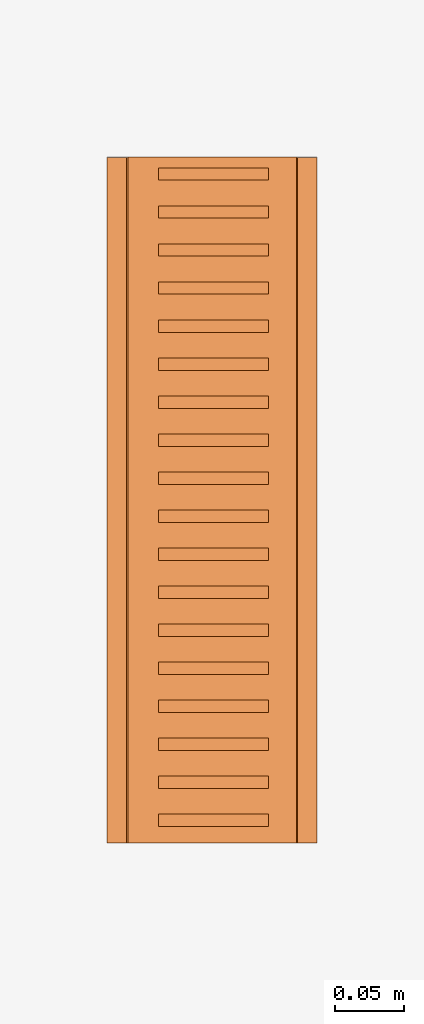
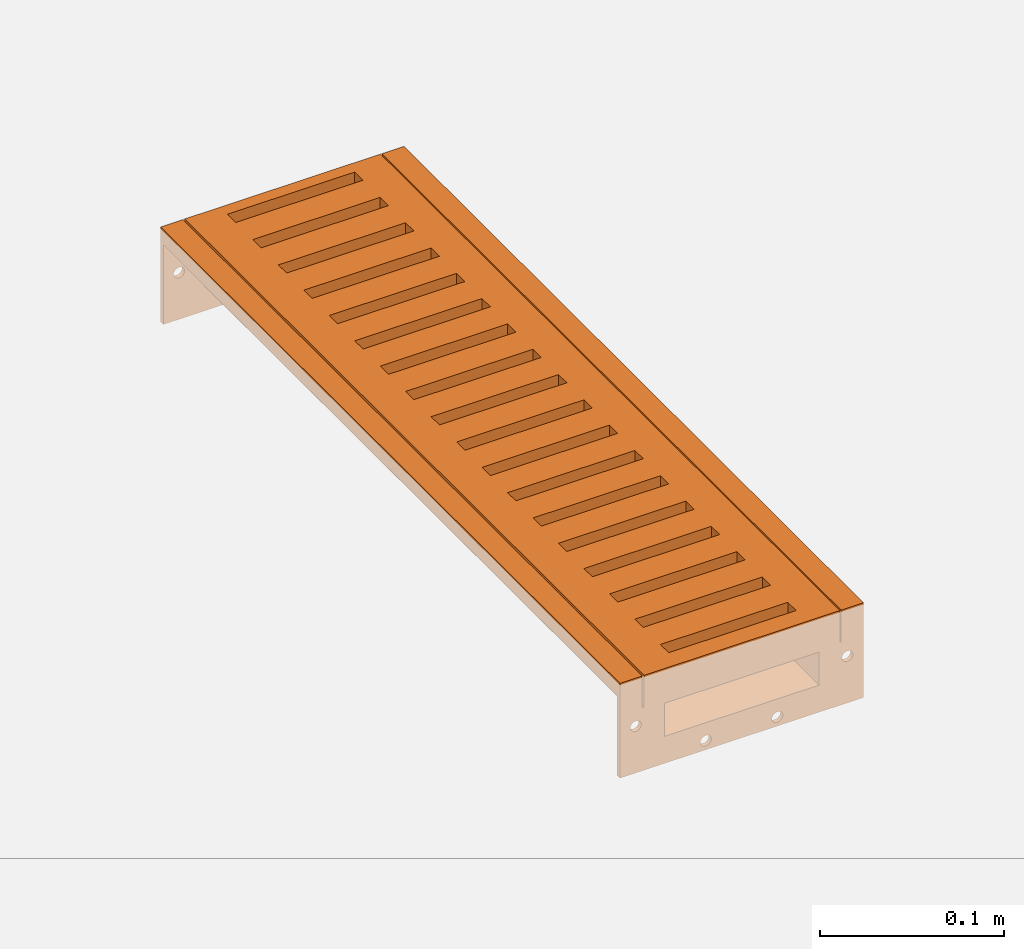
# One storey, part 2 of 2: 1 proxy.
"""IFC2X3 building model written with IfcOpenShell, lengths in millimetres."""

from ifc_helpers import new_model, entity, si_unit, converted_unit, direction, frame, frame_2d, origin, place, context, subcontext, project, spatial, polyline, circle_curve, parameter, trimmed, segment, composite_curve, outline, extrude, source, transform, mapped, material, element, save


model = new_model("IFC2X3")

# Units and contexts
model_context = context("Model", 3, precision=1e-06, world=origin(), true_north=direction((2.0, 6.12303176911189e-17, 1.0)))
context_of_model = context(None, 3, precision=1e-06, world=origin(), true_north=direction((2.0, 6.12303176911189e-17, 1.0)))
body_context = subcontext(model_context, "Body", "Model", "MODEL_VIEW")
ifc_project = project(units=[si_unit("LENGTHUNIT", "METRE", prefix="MILLI"), si_unit("AREAUNIT", "SQUARE_METRE", prefix="MILLI"), si_unit("VOLUMEUNIT", "CUBIC_METRE", prefix="MILLI"), converted_unit("PLANEANGLEUNIT", "DEGREE", entity("IfcRatioMeasure", 0.0174532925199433), si_unit("PLANEANGLEUNIT", "RADIAN"), dimensions=[0, 0, 0, 0, 0, 0, 0]), si_unit("TIMEUNIT", "SECOND")], contexts=[model_context, context_of_model])

# Site, building, storey
site_placement = place(None, origin())
site = spatial("IfcSite", under=ifc_project, at=site_placement, Name="Default", CompositionType="ELEMENT")
building_placement = place(site_placement, origin())
building = spatial("IfcBuilding", under=site, at=building_placement, CompositionType="ELEMENT")
storey_placement = place(building_placement, origin())
storey = spatial("IfcBuildingStorey", under=building, at=storey_placement, Name="Level 1", CompositionType="ELEMENT", Elevation=0.0)

# Proxy
ifc_material = material(Name="Steel, Galvanized")
shared_shape = source(origin(), body_context, "Body", "SweptSolid", [
    extrude(outline(polyline([(-250.0, -61.4999999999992), (250.0, -61.4999999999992), (250.0, 61.4999999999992), (-250.0, 61.4999999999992), (-250.0, -61.4999999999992)]), holes=[polyline([(-229.049999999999, 39.1969999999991), (-229.049999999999, -40.8030000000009), (-238.049999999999, -40.8030000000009), (-238.049999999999, 39.1969999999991), (-229.049999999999, 39.1969999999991)]), polyline([(-201.329999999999, 39.196999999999), (-201.329999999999, -40.803000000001), (-210.329999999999, -40.803000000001), (-210.329999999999, 39.196999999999), (-201.329999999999, 39.196999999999)]), polyline([(-182.609999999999, -40.803000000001), (-182.609999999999, 39.196999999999), (-173.609999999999, 39.196999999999), (-173.609999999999, -40.803000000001), (-182.609999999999, -40.803000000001)]), polyline([(-145.889999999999, -40.8030000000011), (-154.889999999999, -40.803000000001), (-154.889999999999, 39.1969999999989), (-145.889999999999, 39.1969999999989), (-145.889999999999, -40.8030000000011)]), polyline([(-127.169999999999, -40.8030000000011), (-127.169999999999, 39.1969999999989), (-118.169999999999, 39.1969999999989), (-118.169999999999, -40.8030000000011), (-127.169999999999, -40.8030000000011)]), polyline([(-99.4499999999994, -40.8030000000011), (-99.4499999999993, 39.1969999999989), (-90.4499999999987, 39.1969999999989), (-90.4499999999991, -40.8030000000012), (-99.4499999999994, -40.8030000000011)]), polyline([(-71.7299999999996, -40.8030000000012), (-71.7299999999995, 39.1969999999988), (-62.7299999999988, 39.1969999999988), (-62.7299999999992, -40.8030000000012), (-71.7299999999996, -40.8030000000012)]), polyline([(-44.0099999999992, -40.8030000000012), (-44.009999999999, 39.1969999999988), (-35.0099999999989, 39.1969999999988), (-35.0099999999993, -40.8030000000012), (-44.0099999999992, -40.8030000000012)]), polyline([(-16.2899999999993, -40.8030000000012), (-16.2899999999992, 39.1969999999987), (-7.28999999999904, 39.1969999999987), (-7.28999999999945, -40.8030000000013), (-16.2899999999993, -40.8030000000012)]), polyline([(11.4300000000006, -40.8030000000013), (11.4300000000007, 39.1969999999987), (20.4300000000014, 39.1969999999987), (20.430000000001, -40.8030000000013), (11.4300000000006, -40.8030000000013)]), polyline([(39.1500000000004, -40.8030000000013), (39.1500000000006, 39.1969999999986), (48.1500000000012, 39.1969999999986), (48.1500000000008, -40.8030000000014), (39.1500000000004, -40.8030000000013)]), polyline([(66.8700000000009, -40.8030000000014), (66.870000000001, 39.1969999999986), (75.8700000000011, 39.1969999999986), (75.8700000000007, -40.8030000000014), (66.8700000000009, -40.8030000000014)]), polyline([(94.5900000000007, -40.8030000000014), (94.5900000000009, 39.1969999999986), (103.590000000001, 39.1969999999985), (103.590000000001, -40.8030000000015), (94.5900000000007, -40.8030000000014)]), polyline([(122.310000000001, -40.8030000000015), (122.310000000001, 39.1969999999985), (131.310000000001, 39.1969999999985), (131.310000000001, -40.8030000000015), (122.310000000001, -40.8030000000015)]), polyline([(150.03, -40.8030000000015), (150.030000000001, 39.1969999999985), (159.030000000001, 39.1969999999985), (159.030000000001, -40.8030000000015), (150.03, -40.8030000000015)]), polyline([(177.750000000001, -40.8030000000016), (177.750000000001, 39.1969999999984), (186.750000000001, 39.1969999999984), (186.750000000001, -40.8030000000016), (177.750000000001, -40.8030000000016)]), polyline([(205.470000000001, -40.8030000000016), (205.470000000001, 39.1969999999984), (214.470000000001, 39.1969999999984), (214.470000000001, -40.8030000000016), (205.470000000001, -40.8030000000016)]), polyline([(233.190000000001, -40.8030000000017), (233.190000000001, 39.1969999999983), (242.190000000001, 39.1969999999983), (242.190000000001, -40.8030000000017), (233.190000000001, -40.8030000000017)])]), frame((-0.803000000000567, 250.0, -23.0), z_axis=(0.0, 0.0, 1.0), x_axis=(0.0, 1.0, 0.0)), (0.0, 0.0, 1.0), 23.0),
    extrude(outline(polyline([(-76.479369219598, -27.9230769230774), (-62.5037510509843, -27.9230769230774), (-62.5037510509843, -6.92307692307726), (-48.5037510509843, -6.92307692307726), (-48.5037510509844, 17.076923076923), (48.4962489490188, 17.076923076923), (48.4962489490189, -6.92307692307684), (62.4962489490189, -6.92307692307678), (62.496248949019, -27.923076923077), (76.4962489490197, -27.923076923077), (76.4962489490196, 35.0769230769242), (-0.00375105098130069, 35.0769230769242), (-76.4793692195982, 35.0769230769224), (-76.479369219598, -27.9230769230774)]), holes=[composite_curve([segment(trimmed(circle_curve(frame_2d((66.4962489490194, 4.07692307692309), x_axis=(-1.0, 0.0)), 3.5), [parameter(180.000000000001)], [parameter(7.12444248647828e-13)], True, "PARAMETER"), False, "CONTINUOUS"), segment(trimmed(circle_curve(frame_2d((66.4962489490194, 4.07692307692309), x_axis=(-1.0, 0.0)), 3.5), [parameter(7.12444248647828e-13)], [parameter(180.0)], True, "PARAMETER"), False, "CONTINUOUS")], self_intersect=False), composite_curve([segment(trimmed(circle_curve(frame_2d((22.496248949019, 29.0769230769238), x_axis=(-1.0, 0.0)), 3.5), [parameter(180.0)], [parameter(7.12444248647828e-13)], True, "PARAMETER"), False, "CONTINUOUS"), segment(trimmed(circle_curve(frame_2d((22.496248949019, 29.0769230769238), x_axis=(-1.0, 0.0)), 3.5), [parameter(7.12444248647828e-13)], [parameter(180.0)], True, "PARAMETER"), False, "CONTINUOUS")], self_intersect=False), composite_curve([segment(trimmed(circle_curve(frame_2d((-22.5037510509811, 29.0769230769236), x_axis=(-1.0, 0.0)), 3.5), [parameter(4.07110999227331e-13)], [parameter(180.0)], True, "PARAMETER"), False, "CONTINUOUS"), segment(trimmed(circle_curve(frame_2d((-22.5037510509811, 29.0769230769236), x_axis=(-1.0, 0.0)), 3.5), [parameter(180.0)], [parameter(0.0)], True, "PARAMETER"), False, "CONTINUOUS")], self_intersect=False), composite_curve([segment(trimmed(circle_curve(frame_2d((-66.5037510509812, 4.07692307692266), x_axis=(-1.0, 0.0)), 3.5), [parameter(3.56222124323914e-13)], [parameter(180.0)], True, "PARAMETER"), False, "CONTINUOUS"), segment(trimmed(circle_curve(frame_2d((-66.5037510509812, 4.07692307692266), x_axis=(-1.0, 0.0)), 3.5), [parameter(180.0)], [parameter(0.0)], True, "PARAMETER"), False, "CONTINUOUS")], self_intersect=False)]), frame((-1.05616774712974, 496.955287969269, -27.9230769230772), z_axis=(0.0, 1.0, 0.0), x_axis=(1.0, 0.0, 0.0)), (0.0, 0.0, 1.0), 2.95528796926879),
    extrude(outline(polyline([(-76.4999298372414, -27.9230769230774), (-62.5000127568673, -27.9230769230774), (-62.5000127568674, -6.92307692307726), (-48.5000127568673, -6.92307692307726), (-48.5000127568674, 17.076923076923), (48.4999872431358, 17.076923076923), (48.4999872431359, -6.92307692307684), (62.4999872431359, -6.92307692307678), (62.499987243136, -27.923076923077), (76.4999872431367, -27.923076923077), (76.4999872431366, 35.0769230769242), (-1.27568643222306e-05, 35.0769230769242), (-76.4999298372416, 35.0769230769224), (-76.4999298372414, -27.9230769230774)]), holes=[composite_curve([segment(trimmed(circle_curve(frame_2d((66.4999872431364, 4.07692307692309), x_axis=(-1.0, 0.0)), 3.5), [parameter(180.000000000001)], [parameter(7.12444248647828e-13)], True, "PARAMETER"), False, "CONTINUOUS"), segment(trimmed(circle_curve(frame_2d((66.4999872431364, 4.07692307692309), x_axis=(-1.0, 0.0)), 3.5), [parameter(7.12444248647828e-13)], [parameter(180.0)], True, "PARAMETER"), False, "CONTINUOUS")], self_intersect=False), composite_curve([segment(trimmed(circle_curve(frame_2d((22.4999872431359, 29.0769230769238), x_axis=(-1.0, 0.0)), 3.5), [parameter(180.0)], [parameter(7.12444248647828e-13)], True, "PARAMETER"), False, "CONTINUOUS"), segment(trimmed(circle_curve(frame_2d((22.4999872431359, 29.0769230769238), x_axis=(-1.0, 0.0)), 3.5), [parameter(7.12444248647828e-13)], [parameter(180.0)], True, "PARAMETER"), False, "CONTINUOUS")], self_intersect=False), composite_curve([segment(trimmed(circle_curve(frame_2d((-22.5000127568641, 29.0769230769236), x_axis=(-1.0, 0.0)), 3.5), [parameter(4.07110999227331e-13)], [parameter(180.0)], True, "PARAMETER"), False, "CONTINUOUS"), segment(trimmed(circle_curve(frame_2d((-22.5000127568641, 29.0769230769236), x_axis=(-1.0, 0.0)), 3.5), [parameter(180.0)], [parameter(4.07110999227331e-13)], True, "PARAMETER"), False, "CONTINUOUS")], self_intersect=False), composite_curve([segment(trimmed(circle_curve(frame_2d((-66.5000127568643, 4.07692307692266), x_axis=(-1.0, 0.0)), 3.5), [parameter(3.56222124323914e-13)], [parameter(180.0)], True, "PARAMETER"), False, "CONTINUOUS"), segment(trimmed(circle_curve(frame_2d((-66.5000127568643, 4.07692307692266), x_axis=(-1.0, 0.0)), 3.5), [parameter(180.0)], [parameter(3.56222124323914e-13)], True, "PARAMETER"), False, "CONTINUOUS")], self_intersect=False)]), frame((-1.0599060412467, 0.0, -27.9230769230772), z_axis=(0.0, 1.0, 0.0), x_axis=(1.0, 0.0, 0.0)), (0.0, 0.0, 1.0), 2.95528796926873),
    extrude(outline(polyline([(-19.4461905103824, -62.4999585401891), (-19.4461905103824, -76.4999585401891), (-9.4461905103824, -76.4999585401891), (-9.4461905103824, -74.4999585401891), (-17.4822085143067, -74.4999585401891), (-17.4822085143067, -64.499958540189), (3.50614790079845, -64.499958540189), (3.50614790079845, -50.499958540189), (27.3476239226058, -50.499958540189), (27.3476239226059, 0.0), (27.3476239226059, 50.4999585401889), (3.50614790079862, 50.499958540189), (3.50614790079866, 64.499958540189), (-17.4822085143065, 64.4999585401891), (-17.4822085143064, 74.4999585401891), (-9.44619051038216, 74.4999585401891), (-9.44619051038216, 76.4999585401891), (-19.4461905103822, 76.4999585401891), (-19.4461905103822, 62.4999585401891), (1.5538094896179, 62.4999585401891), (1.55380948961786, 48.499958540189), (3.27711417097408, 48.499958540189), (25.5538094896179, 48.4999585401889), (25.5538094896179, 0.0), (25.5538094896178, -48.499958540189), (3.27711417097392, -48.499958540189), (1.5538094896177, -48.499958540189), (1.5538094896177, -62.4999585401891), (-19.4461905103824, -62.4999585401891)])), frame((-1.03557842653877, 2.95528796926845, -19.4461905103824), z_axis=(0.0, -1.0, 0.0), x_axis=(0.0, 0.0, -1.0)), (0.0, 0.0, -1.0), 494.0),
])
proxy_placement = place(storey_placement, frame((-43.549646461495, -92.2913284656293, 0.0)))
element("IfcBuildingElementProxy", 1, at=proxy_placement, inside=storey, material=ifc_material, Name="ACO BD Deckline 125 Straight Channel:105254 - Level Invert Channel-500mm LG:105254 - Level Invert Channel-500mm LG", ObjectType="105254 - Level Invert Channel-500mm LG", CompositionType="ELEMENT", context=body_context, shape_type="MappedRepresentation", body=[
    mapped(shared_shape, transform((0.0, 0.0, 0.0), scale=1.0)),
])

save(model, "model.ifc")
